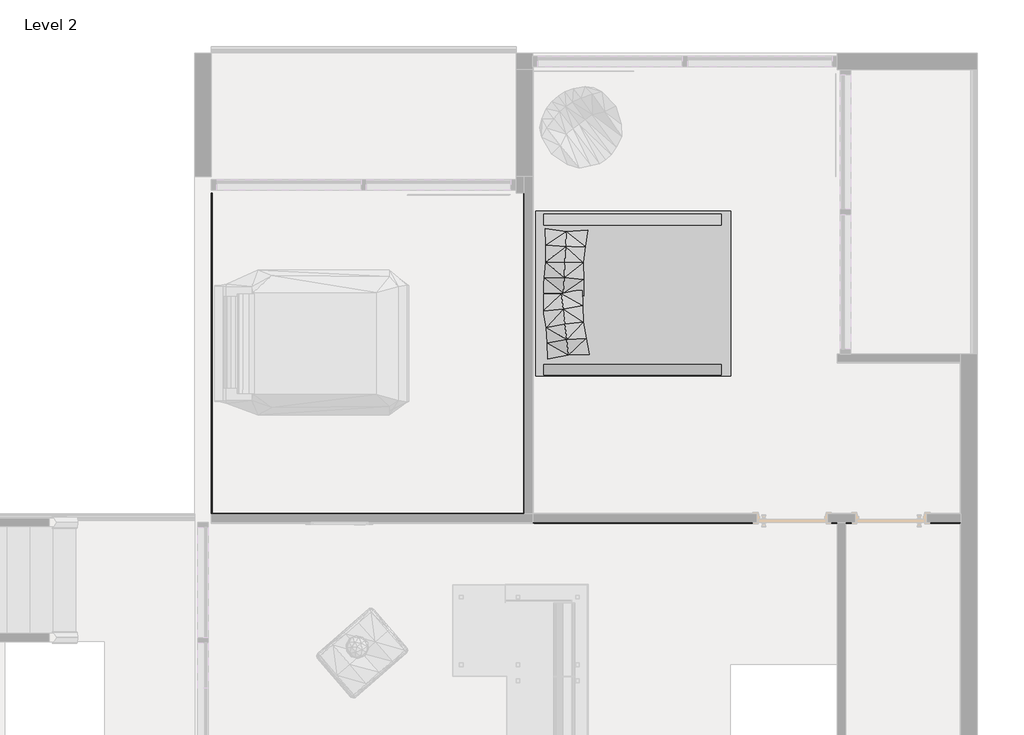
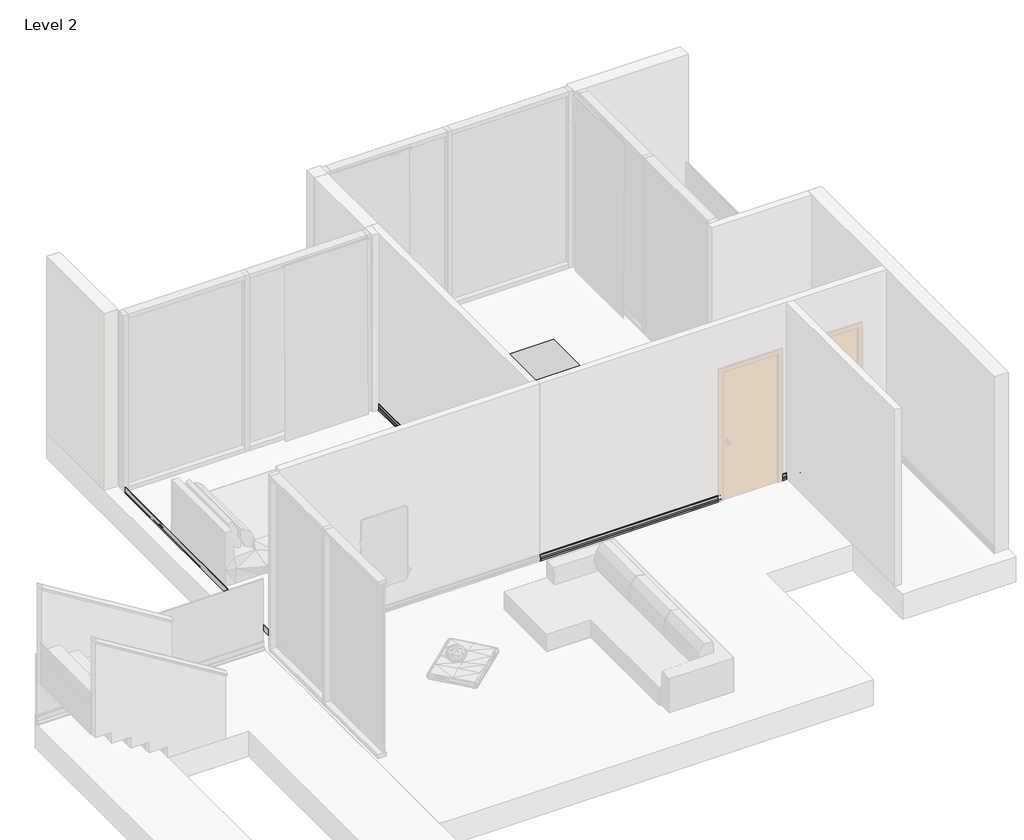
# One storey, part 3 of 4: 2 proxies, 1 geographic element.
"""IFC4 building model written with IfcOpenShell, lengths in millimetres."""

from ifc_helpers import new_model, si_unit, point, frame, frame_2d, origin, place, context, project, spatial, polyline, circle_curve, ellipse_curve, trimmed, segment, composite_curve, outline, extrude, transform, mapped, element, save
from ifc_brep_helpers import plane_surface, cylinder_surface, revolved_surface, advanced_brep
from components import geographic_element_3f57ac11

model = new_model("IFC4")

# Units and contexts
model_context = context("Model", 3, world=origin())
ifc_project = project(units=[si_unit("LENGTHUNIT", "METRE", prefix="MILLI")], contexts=[model_context])

# Site, building, storey
site = spatial("IfcSite", under=ifc_project)
building = spatial("IfcBuilding", under=site)
storey = spatial("IfcBuildingStorey", under=building, Name="Level 2", Elevation=4200.0)

# Proxies
placement = place(None, origin())
element("IfcBuildingElementProxy", 1, Name="Brick Soldier Course", ObjectType="Brick Soldier Course", at=placement, inside=storey, context=model_context, shape_type="SweptSolid", body=[
    extrude(outline(composite_curve([segment(polyline([(13066.9206658, 4300.0), (13066.9206658, 4200.0), (13053.7928378, 4200.0)]), True, "CONTINUOUS"), segment(trimmed(circle_curve(frame_2d((13011.7757488, 4223.0672348)), 47.932589), [point((13053.7928378, 4200.0))], [point((13059.2884138, 4216.7363778))], True, "CARTESIAN"), True, "CONTINUOUS"), segment(trimmed(circle_curve(frame_2d((13060.6531616, 4216.554531)), 1.3768096), [point((13059.2884138, 4216.7363778))], [point((13060.6531616, 4217.9313406))], False, "CARTESIAN"), True, "CONTINUOUS"), segment(polyline([(13060.6531616, 4217.9313406), (13061.9206658, 4217.9313406), (13061.9206658, 4225.0), (13060.8836184, 4225.0)]), True, "CONTINUOUS"), segment(trimmed(circle_curve(frame_2d((13060.8836184, 4226.451226)), 1.451226), [point((13060.8836184, 4225.0))], [point((13059.4323924, 4226.451226))], False, "CARTESIAN"), True, "CONTINUOUS"), segment(polyline([(13059.4323924, 4226.451226), (13059.4323924, 4248.5)]), True, "CONTINUOUS"), segment(trimmed(circle_curve(frame_2d((13060.9323924, 4248.5)), 1.5), [point((13059.4323924, 4248.5))], [point((13060.9323924, 4250.0))], False, "CARTESIAN"), True, "CONTINUOUS"), segment(polyline([(13060.9323924, 4250.0), (13064.4323924, 4250.0), (13064.4323924, 4290.0), (13063.3572238, 4290.0)]), True, "CONTINUOUS"), segment(trimmed(circle_curve(frame_2d((13063.3572238, 4291.4365579)), 1.4365579), [point((13063.3572238, 4290.0))], [point((13061.9206658, 4291.4365579))], False, "CARTESIAN"), True, "CONTINUOUS"), segment(polyline([(13061.9206658, 4291.4365579), (13061.9206658, 4295.9967275)]), True, "CONTINUOUS"), segment(trimmed(circle_curve(frame_2d((13065.9239384, 4295.9967275)), 4.0032725), [point((13061.9206658, 4295.9967275))], [point((13065.9239384, 4300.0))], False, "CARTESIAN"), True, "CONTINUOUS"), segment(polyline([(13065.9239384, 4300.0), (13066.9206658, 4300.0)]), True, "CONTINUOUS")], self_intersect=False)), frame((25624.9337784, 0.0, 0.0), z_axis=(1.0, 0.0, 0.0), x_axis=(0.0, 1.0, 0.0)), (0.0, 0.0, 1.0), 418.2),
    extrude(outline(composite_curve([segment(polyline([(13066.9206658, 4300.0), (13066.9206658, 4200.0), (13053.7928378, 4200.0)]), True, "CONTINUOUS"), segment(trimmed(circle_curve(frame_2d((13011.7757488, 4223.0672348)), 47.932589), [point((13053.7928378, 4200.0))], [point((13059.2884138, 4216.7363778))], True, "CARTESIAN"), True, "CONTINUOUS"), segment(trimmed(circle_curve(frame_2d((13060.6531616, 4216.554531)), 1.3768096), [point((13059.2884138, 4216.7363778))], [point((13060.6531616, 4217.9313406))], False, "CARTESIAN"), True, "CONTINUOUS"), segment(polyline([(13060.6531616, 4217.9313406), (13061.9206658, 4217.9313406), (13061.9206658, 4225.0), (13060.8836184, 4225.0)]), True, "CONTINUOUS"), segment(trimmed(circle_curve(frame_2d((13060.8836184, 4226.451226)), 1.451226), [point((13060.8836184, 4225.0))], [point((13059.4323924, 4226.451226))], False, "CARTESIAN"), True, "CONTINUOUS"), segment(polyline([(13059.4323924, 4226.451226), (13059.4323924, 4248.5)]), True, "CONTINUOUS"), segment(trimmed(circle_curve(frame_2d((13060.9323924, 4248.5)), 1.5), [point((13059.4323924, 4248.5))], [point((13060.9323924, 4250.0))], False, "CARTESIAN"), True, "CONTINUOUS"), segment(polyline([(13060.9323924, 4250.0), (13064.4323924, 4250.0), (13064.4323924, 4290.0), (13063.3572238, 4290.0)]), True, "CONTINUOUS"), segment(trimmed(circle_curve(frame_2d((13063.3572238, 4291.4365579)), 1.4365579), [point((13063.3572238, 4290.0))], [point((13061.9206658, 4291.4365579))], False, "CARTESIAN"), True, "CONTINUOUS"), segment(polyline([(13061.9206658, 4291.4365579), (13061.9206658, 4295.9967275)]), True, "CONTINUOUS"), segment(trimmed(circle_curve(frame_2d((13065.9239384, 4295.9967275)), 4.0032725), [point((13061.9206658, 4295.9967275))], [point((13065.9239384, 4300.0))], False, "CARTESIAN"), True, "CONTINUOUS"), segment(polyline([(13065.9239384, 4300.0), (13066.9206658, 4300.0)]), True, "CONTINUOUS")], self_intersect=False)), frame((24424.9337784, 0.0, 0.0), z_axis=(1.0, 0.0, 0.0), x_axis=(0.0, 1.0, 0.0)), (0.0, 0.0, 1.0), 336.4),
    extrude(outline(composite_curve([segment(polyline([(13066.9206658, 4300.0), (13066.9206658, 4200.0), (13053.7928378, 4200.0)]), True, "CONTINUOUS"), segment(trimmed(circle_curve(frame_2d((13011.7757488, 4223.0672348)), 47.932589), [point((13053.7928378, 4200.0))], [point((13059.2884138, 4216.7363778))], True, "CARTESIAN"), True, "CONTINUOUS"), segment(trimmed(circle_curve(frame_2d((13060.6531616, 4216.554531)), 1.3768096), [point((13059.2884138, 4216.7363778))], [point((13060.6531616, 4217.9313406))], False, "CARTESIAN"), True, "CONTINUOUS"), segment(polyline([(13060.6531616, 4217.9313406), (13061.9206658, 4217.9313406), (13061.9206658, 4225.0), (13060.8836184, 4225.0)]), True, "CONTINUOUS"), segment(trimmed(circle_curve(frame_2d((13060.8836184, 4226.451226)), 1.451226), [point((13060.8836184, 4225.0))], [point((13059.4323924, 4226.451226))], False, "CARTESIAN"), True, "CONTINUOUS"), segment(polyline([(13059.4323924, 4226.451226), (13059.4323924, 4248.5)]), True, "CONTINUOUS"), segment(trimmed(circle_curve(frame_2d((13060.9323924, 4248.5)), 1.5), [point((13059.4323924, 4248.5))], [point((13060.9323924, 4250.0))], False, "CARTESIAN"), True, "CONTINUOUS"), segment(polyline([(13060.9323924, 4250.0), (13064.4323924, 4250.0), (13064.4323924, 4290.0), (13063.3572238, 4290.0)]), True, "CONTINUOUS"), segment(trimmed(circle_curve(frame_2d((13063.3572238, 4291.4365579)), 1.4365579), [point((13063.3572238, 4290.0))], [point((13061.9206658, 4291.4365579))], False, "CARTESIAN"), True, "CONTINUOUS"), segment(polyline([(13061.9206658, 4291.4365579), (13061.9206658, 4295.9967275)]), True, "CONTINUOUS"), segment(trimmed(circle_curve(frame_2d((13065.9239384, 4295.9967275)), 4.0032725), [point((13061.9206658, 4295.9967275))], [point((13065.9239384, 4300.0))], False, "CARTESIAN"), True, "CONTINUOUS"), segment(polyline([(13065.9239384, 4300.0), (13066.9206658, 4300.0)]), True, "CONTINUOUS")], self_intersect=False)), frame((20843.1337784, 0.0, 0.0), z_axis=(1.0, 0.0, 0.0), x_axis=(0.0, 1.0, 0.0)), (0.0, 0.0, 1.0), 2718.2),
])
element("IfcBuildingElementProxy", 2, Name="Brick Soldier Course", ObjectType="Brick Soldier Course", at=placement, inside=storey, context=model_context, shape_type="AdvancedBrep", body=[
    advanced_brep(
    [(16943.1337784, 13166.9206658, 4300.0), (16944.1305058, 13167.9173933, 4300.0), (16948.1337784, 13171.9206658, 4295.9967275), (16948.1337784, 13171.9206658, 4291.4365579), (16946.6972204, 13170.4841079, 4290.0), (16945.6220518, 13169.4089393, 4290.0), (16945.6220518, 13169.4089393, 4250.0), (16949.1220518, 13172.9089393, 4250.0), (16950.6220518, 13174.4089393, 4248.5), (16950.6220518, 13174.4089393, 4226.451226), (16949.1708258, 13172.9577133, 4225.0), (16948.1337784, 13171.9206658, 4225.0), (16948.1337784, 13171.9206658, 4217.9313406), (16949.4012827, 13173.1881701, 4217.9313406), (16950.7660304, 13174.5529179, 4216.7363778), (16956.2616065, 13180.0484939, 4200.0), (16943.1337784, 13166.9206658, 4200.0), (20743.1337784, 13166.9206658, 4300.0), (20743.1337784, 13166.9206658, 4200.0), (20730.0059503, 13180.0484939, 4200.0), (20735.5015263, 13174.5529179, 4216.7363778), (20736.8662741, 13173.1881701, 4217.9313406), (20738.1337784, 13171.9206658, 4217.9313406), (20738.1337784, 13171.9206658, 4225.0), (20737.0967309, 13172.9577133, 4225.0), (20735.6455049, 13174.4089393, 4226.451226), (20735.6455049, 13174.4089393, 4248.5), (20737.1455049, 13172.9089393, 4250.0), (20740.6455049, 13169.4089393, 4250.0), (20740.6455049, 13169.4089393, 4290.0), (20739.5703363, 13170.4841079, 4290.0), (20738.1337784, 13171.9206658, 4291.4365579), (20738.1337784, 13171.9206658, 4295.9967275), (20742.1370509, 13167.9173933, 4300.0)],
    [
        (0, 1),
        (1, 2, ellipse_curve(frame((16944.1305058, 13167.9173933, 4295.9967275), z_axis=(-0.7071067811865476, 0.7071067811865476, 0.0), x_axis=(-0.7071067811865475, -0.7071067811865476, 0.0)), 5.6614823, 4.0032725)),
        (2, 3),
        (3, 4, ellipse_curve(frame((16946.6972204, 13170.4841079, 4291.4365579), z_axis=(-0.7071067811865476, 0.7071067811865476, 0.0), x_axis=(-0.7071067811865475, -0.7071067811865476, 0.0)), 2.0315997, 1.4365579)),
        (4, 5),
        (5, 6),
        (6, 7),
        (7, 8, ellipse_curve(frame((16949.1220518, 13172.9089393, 4248.5), z_axis=(-0.7071067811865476, 0.7071067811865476, 0.0), x_axis=(-0.7071067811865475, -0.7071067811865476, 0.0)), 2.1213203, 1.5)),
        (8, 9),
        (9, 10, ellipse_curve(frame((16949.1708258, 13172.9577133, 4226.451226), z_axis=(-0.7071067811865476, 0.7071067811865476, 0.0), x_axis=(-0.7071067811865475, -0.7071067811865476, 0.0)), 2.0523435, 1.451226)),
        (10, 11),
        (11, 12),
        (12, 13),
        (13, 14, ellipse_curve(frame((16949.4012827, 13173.1881701, 4216.554531), z_axis=(-0.7071067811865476, 0.7071067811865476, 0.0), x_axis=(-0.7071067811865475, -0.7071067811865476, 0.0)), 1.9471028, 1.3768096)),
        (14, 15, ellipse_curve(frame((16998.2786954, 13222.0655829, 4223.0672348), z_axis=(0.7071067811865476, -0.7071067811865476, 0.0), x_axis=(0.7071067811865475, 0.7071067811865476, 0.0)), 67.7869174, 47.932589)),
        (15, 16),
        (16, 0),
        (17, 18),
        (18, 19),
        (19, 20, ellipse_curve(frame((20687.9888613, 13222.0655829, 4223.0672348), z_axis=(-0.7071067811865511, -0.707106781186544, 0.0), x_axis=(0.7071067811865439, -0.7071067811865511, 0.0)), 67.7869174, 47.932589)),
        (20, 21, ellipse_curve(frame((20736.8662741, 13173.1881701, 4216.554531), z_axis=(0.7071067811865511, 0.707106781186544, 0.0), x_axis=(-0.7071067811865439, 0.7071067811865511, 0.0)), 1.9471028, 1.3768096)),
        (21, 22),
        (22, 23),
        (23, 24),
        (24, 25, ellipse_curve(frame((20737.0967309, 13172.9577133, 4226.451226), z_axis=(0.7071067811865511, 0.707106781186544, 0.0), x_axis=(-0.7071067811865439, 0.7071067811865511, 0.0)), 2.0523435, 1.451226)),
        (25, 26),
        (26, 27, ellipse_curve(frame((20737.1455049, 13172.9089393, 4248.5), z_axis=(0.7071067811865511, 0.707106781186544, 0.0), x_axis=(-0.7071067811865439, 0.7071067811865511, 0.0)), 2.1213203, 1.5)),
        (27, 28),
        (28, 29),
        (29, 30),
        (30, 31, ellipse_curve(frame((20739.5703363, 13170.4841079, 4291.4365579), z_axis=(0.7071067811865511, 0.707106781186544, 0.0), x_axis=(-0.7071067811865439, 0.7071067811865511, 0.0)), 2.0315997, 1.4365579)),
        (31, 32),
        (32, 33, ellipse_curve(frame((20742.1370509, 13167.9173933, 4295.9967275), z_axis=(0.7071067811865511, 0.707106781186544, 0.0), x_axis=(-0.7071067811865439, 0.7071067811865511, 0.0)), 5.6614823, 4.0032725)),
        (33, 17),
        (0, 17),
        (33, 1),
        (32, 2),
        (31, 3),
        (30, 4),
        (29, 5),
        (28, 6),
        (27, 7),
        (26, 8),
        (25, 9),
        (24, 10),
        (23, 11),
        (22, 12),
        (21, 13),
        (20, 14),
        (19, 15),
        (18, 16),
    ],
    [
        plane_surface(frame((16943.1337784, 13166.9206658, 3895.2), z_axis=(-0.7071067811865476, 0.7071067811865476, 0.0), x_axis=(0.7071067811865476, 0.7071067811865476, 0.0))),
        plane_surface(frame((20743.1337784, 13166.9206658, 3895.2), z_axis=(0.7071067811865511, 0.707106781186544, 0.0), x_axis=(-0.707106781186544, 0.7071067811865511, 0.0))),
        plane_surface(frame((16943.1337784, 13166.9206658, 4300.0), z_axis=(0.0, 0.0, 1.0), x_axis=(1.0, 0.0, 0.0))),
        cylinder_surface(frame((16943.1337784, 13167.9173933, 4295.9967275), z_axis=(-1.0, 0.0, 0.0), x_axis=(0.0, 1.0, 0.0)), 4.0032725),
        plane_surface(frame((16948.1337784, 13171.9206658, 4295.9967275), z_axis=(0.0, 1.0, 0.0), x_axis=(1.0, 0.0, 0.0))),
        cylinder_surface(frame((16943.1337784, 13170.4841079, 4291.4365579), z_axis=(-1.0, 0.0, 0.0), x_axis=(0.0, 1.0, 0.0)), 1.4365579),
        plane_surface(frame((16946.6972204, 13170.4841079, 4290.0), z_axis=(0.0, 0.0, -1.0), x_axis=(1.0, 0.0, 0.0))),
        plane_surface(frame((16945.6220518, 13169.4089393, 4290.0), z_axis=(0.0, 1.0, 0.0), x_axis=(1.0, 0.0, 0.0))),
        plane_surface(frame((16945.6220518, 13169.4089393, 4250.0), z_axis=(0.0, 0.0, 1.0), x_axis=(1.0, 0.0, 0.0))),
        cylinder_surface(frame((16943.1337784, 13172.9089393, 4248.5), z_axis=(-1.0, 0.0, 0.0), x_axis=(0.0, 1.0, 0.0)), 1.5),
        plane_surface(frame((16950.6220518, 13174.4089393, 4248.5), z_axis=(0.0, 1.0, 0.0), x_axis=(1.0, 0.0, 0.0))),
        cylinder_surface(frame((16943.1337784, 13172.9577133, 4226.451226), z_axis=(-1.0, 0.0, 0.0), x_axis=(0.0, 1.0, 0.0)), 1.451226),
        plane_surface(frame((16949.1708258, 13172.9577133, 4225.0), z_axis=(0.0, 0.0, -1.0), x_axis=(1.0, 0.0, 0.0))),
        plane_surface(frame((16948.1337784, 13171.9206658, 4225.0), z_axis=(0.0, 1.0, 0.0), x_axis=(1.0, 0.0, 0.0))),
        plane_surface(frame((16948.1337784, 13171.9206658, 4217.9313406), z_axis=(0.0, 0.0, 1.0), x_axis=(1.0, 0.0, 0.0))),
        cylinder_surface(frame((16943.1337784, 13173.1881701, 4216.554531), z_axis=(-1.0, 0.0, 0.0), x_axis=(0.0, 1.0, 0.0)), 1.3768096),
        revolved_surface(polyline([(20735.921450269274, 13269.9981719, 4223.0672348), (16950.346106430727, 13269.9981719, 4223.0672348)]), (16943.1337784, 13222.0655829, 4223.0672348), (1.0, 0.0, 0.0)),
        plane_surface(frame((16956.2616065, 13180.0484939, 4200.0), z_axis=(0.0, 0.0, -1.0), x_axis=(1.0, 0.0, 0.0))),
        plane_surface(frame((16943.1337784, 13166.9206658, 4200.0), z_axis=(0.0, -1.0, 0.0), x_axis=(1.0, 0.0, 0.0))),
    ],
    [
        (0, [[1, 2, 3, 4, 5, 6, 7, 8, 9, 10, 11, 12, 13, 14, 15, 16, 17]]),
        (1, [[18, 19, 20, 21, 22, 23, 24, 25, 26, 27, 28, 29, 30, 31, 32, 33, 34]]),
        (2, [[-1, 35, -34, 36]]),
        (3, [[-2, -36, -33, 37]]),
        (4, [[-3, -37, -32, 38]]),
        (5, [[-4, -38, -31, 39]]),
        (6, [[-5, -39, -30, 40]]),
        (7, [[-6, -40, -29, 41]]),
        (8, [[-7, -41, -28, 42]]),
        (9, [[-8, -42, -27, 43]]),
        (10, [[-9, -43, -26, 44]]),
        (11, [[-10, -44, -25, 45]]),
        (12, [[-11, -45, -24, 46]]),
        (13, [[-12, -46, -23, 47]]),
        (14, [[-13, -47, -22, 48]]),
        (15, [[-14, -48, -21, 49]]),
        (16, [[-15, -49, -20, 50]]),
        (17, [[-16, -50, -19, 51]]),
        (18, [[-17, -51, -18, -35]]),
    ],
),
    advanced_brep(
    [(20743.1337784, 13166.9206658, 4300.0), (20742.1370509, 13167.9173933, 4300.0), (20738.1337784, 13171.9206658, 4295.9967275), (20738.1337784, 13171.9206658, 4291.4365579), (20739.5703363, 13170.4841079, 4290.0), (20740.6455049, 13169.4089393, 4290.0), (20740.6455049, 13169.4089393, 4250.0), (20737.1455049, 13172.9089393, 4250.0), (20735.6455049, 13174.4089393, 4248.5), (20735.6455049, 13174.4089393, 4226.451226), (20737.0967309, 13172.9577133, 4225.0), (20738.1337784, 13171.9206658, 4225.0), (20738.1337784, 13171.9206658, 4217.9313406), (20736.8662741, 13173.1881701, 4217.9313406), (20735.5015263, 13174.5529179, 4216.7363778), (20730.0059503, 13180.0484939, 4200.0), (20743.1337784, 13166.9206658, 4200.0), (20743.1337784, 17066.9206658, 4300.0), (20743.1337784, 17066.9206658, 4200.0), (20730.0059503, 17066.9206658, 4200.0), (20735.5015263, 17066.9206658, 4216.7363778), (20736.8662741, 17066.9206658, 4217.9313406), (20738.1337784, 17066.9206658, 4217.9313406), (20738.1337784, 17066.9206658, 4225.0), (20737.0967309, 17066.9206658, 4225.0), (20735.6455049, 17066.9206658, 4226.451226), (20735.6455049, 17066.9206658, 4248.5), (20737.1455049, 17066.9206658, 4250.0), (20740.6455049, 17066.9206658, 4250.0), (20740.6455049, 17066.9206658, 4290.0), (20739.5703363, 17066.9206658, 4290.0), (20738.1337784, 17066.9206658, 4291.4365579), (20738.1337784, 17066.9206658, 4295.9967275), (20742.1370509, 17066.9206658, 4300.0)],
    [
        (0, 1),
        (1, 2, ellipse_curve(frame((20742.1370509, 13167.9173933, 4295.9967275), z_axis=(-0.7071067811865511, -0.707106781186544, 0.0), x_axis=(0.707106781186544, -0.707106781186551, 0.0)), 5.6614823, 4.0032725)),
        (2, 3),
        (3, 4, ellipse_curve(frame((20739.5703363, 13170.4841079, 4291.4365579), z_axis=(-0.7071067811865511, -0.707106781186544, 0.0), x_axis=(0.707106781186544, -0.707106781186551, 0.0)), 2.0315997, 1.4365579)),
        (4, 5),
        (5, 6),
        (6, 7),
        (7, 8, ellipse_curve(frame((20737.1455049, 13172.9089393, 4248.5), z_axis=(-0.7071067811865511, -0.707106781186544, 0.0), x_axis=(0.707106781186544, -0.707106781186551, 0.0)), 2.1213203, 1.5)),
        (8, 9),
        (9, 10, ellipse_curve(frame((20737.0967309, 13172.9577133, 4226.451226), z_axis=(-0.7071067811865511, -0.707106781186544, 0.0), x_axis=(0.707106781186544, -0.707106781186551, 0.0)), 2.0523435, 1.451226)),
        (10, 11),
        (11, 12),
        (12, 13),
        (13, 14, ellipse_curve(frame((20736.8662741, 13173.1881701, 4216.554531), z_axis=(-0.7071067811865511, -0.707106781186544, 0.0), x_axis=(0.707106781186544, -0.707106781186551, 0.0)), 1.9471028, 1.3768096)),
        (14, 15, ellipse_curve(frame((20687.9888613, 13222.0655829, 4223.0672348), z_axis=(0.7071067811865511, 0.707106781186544, 0.0), x_axis=(-0.707106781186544, 0.707106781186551, 0.0)), 67.7869174, 47.932589)),
        (15, 16),
        (16, 0),
        (17, 18),
        (18, 19),
        (19, 20, circle_curve(frame((20687.9888613, 17066.9206658, 4223.0672348), z_axis=(0.0, -1.0, 0.0), x_axis=(-1.0, 0.0, 0.0)), 47.932589)),
        (20, 21, circle_curve(frame((20736.8662741, 17066.9206658, 4216.554531), z_axis=(0.0, 1.0, 0.0), x_axis=(-1.0, 0.0, 0.0)), 1.3768096)),
        (21, 22),
        (22, 23),
        (23, 24),
        (24, 25, circle_curve(frame((20737.0967309, 17066.9206658, 4226.451226), z_axis=(0.0, 1.0, 0.0), x_axis=(-1.0, 0.0, 0.0)), 1.451226)),
        (25, 26),
        (26, 27, circle_curve(frame((20737.1455049, 17066.9206658, 4248.5), z_axis=(0.0, 1.0, 0.0), x_axis=(-1.0, 0.0, 0.0)), 1.5)),
        (27, 28),
        (28, 29),
        (29, 30),
        (30, 31, circle_curve(frame((20739.5703363, 17066.9206658, 4291.4365579), z_axis=(0.0, 1.0, 0.0), x_axis=(-1.0, 0.0, 0.0)), 1.4365579)),
        (31, 32),
        (32, 33, circle_curve(frame((20742.1370509, 17066.9206658, 4295.9967275), z_axis=(0.0, 1.0, 0.0), x_axis=(-1.0, 0.0, 0.0)), 4.0032725)),
        (33, 17),
        (0, 17),
        (33, 1),
        (32, 2),
        (31, 3),
        (30, 4),
        (29, 5),
        (28, 6),
        (27, 7),
        (26, 8),
        (25, 9),
        (24, 10),
        (23, 11),
        (22, 12),
        (21, 13),
        (20, 14),
        (19, 15),
        (18, 16),
    ],
    [
        plane_surface(frame((20743.1337784, 13166.9206658, 3895.2), z_axis=(-0.7071067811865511, -0.707106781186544, 0.0), x_axis=(-0.707106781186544, 0.7071067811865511, 0.0))),
        plane_surface(frame((20643.1288112, 17066.9206658, 4200.0), z_axis=(0.0, 1.0, 0.0), x_axis=(0.0, 0.0, 1.0))),
        plane_surface(frame((20743.1337784, 13166.9206658, 4300.0), z_axis=(0.0, 0.0, 1.0), x_axis=(0.0, 1.0, 0.0))),
        cylinder_surface(frame((20742.1370509, 13166.9206658, 4295.9967275), z_axis=(0.0, -1.0, 0.0), x_axis=(-1.0, 0.0, 0.0)), 4.0032725),
        plane_surface(frame((20738.1337784, 13171.9206658, 4295.9967275), z_axis=(-1.0, 0.0, 0.0), x_axis=(0.0, 1.0, 0.0))),
        cylinder_surface(frame((20739.5703363, 13166.9206658, 4291.4365579), z_axis=(0.0, -1.0, 0.0), x_axis=(-1.0, 0.0, 0.0)), 1.4365579),
        plane_surface(frame((20739.5703363, 13170.4841079, 4290.0), z_axis=(0.0, 0.0, -1.0), x_axis=(0.0, 1.0, 0.0))),
        plane_surface(frame((20740.6455049, 13169.4089393, 4290.0), z_axis=(-1.0, 0.0, 0.0), x_axis=(0.0, 1.0, 0.0))),
        plane_surface(frame((20740.6455049, 13169.4089393, 4250.0), z_axis=(0.0, 0.0, 1.0), x_axis=(0.0, 1.0, 0.0))),
        cylinder_surface(frame((20737.1455049, 13166.9206658, 4248.5), z_axis=(0.0, -1.0, 0.0), x_axis=(-1.0, 0.0, 0.0)), 1.5),
        plane_surface(frame((20735.6455049, 13174.4089393, 4248.5), z_axis=(-1.0, 0.0, 0.0), x_axis=(0.0, 1.0, 0.0))),
        cylinder_surface(frame((20737.0967309, 13166.9206658, 4226.451226), z_axis=(0.0, -1.0, 0.0), x_axis=(-1.0, 0.0, 0.0)), 1.451226),
        plane_surface(frame((20737.0967309, 13172.9577133, 4225.0), z_axis=(0.0, 0.0, -1.0), x_axis=(0.0, 1.0, 0.0))),
        plane_surface(frame((20738.1337784, 13171.9206658, 4225.0), z_axis=(-1.0, 0.0, 0.0), x_axis=(0.0, 1.0, 0.0))),
        plane_surface(frame((20738.1337784, 13171.9206658, 4217.9313406), z_axis=(0.0, 0.0, 1.0), x_axis=(0.0, 1.0, 0.0))),
        cylinder_surface(frame((20736.8662741, 13166.9206658, 4216.554531), z_axis=(0.0, -1.0, 0.0), x_axis=(-1.0, 0.0, 0.0)), 1.3768096),
        revolved_surface(polyline([(20640.0562723, 17066.9206658, 4223.0672348), (20640.0562723, 13174.132993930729, 4223.0672348)]), (20687.9888613, 13166.9206658, 4223.0672348), (0.0, 1.0, 0.0)),
        plane_surface(frame((20730.0059503, 13180.0484939, 4200.0), z_axis=(0.0, 0.0, -1.0), x_axis=(0.0, 1.0, 0.0))),
        plane_surface(frame((20743.1337784, 13166.9206658, 4200.0), z_axis=(1.0, 0.0, 0.0), x_axis=(0.0, 1.0, 0.0))),
    ],
    [
        (0, [[1, 2, 3, 4, 5, 6, 7, 8, 9, 10, 11, 12, 13, 14, 15, 16, 17]]),
        (1, [[18, 19, 20, 21, 22, 23, 24, 25, 26, 27, 28, 29, 30, 31, 32, 33, 34]]),
        (2, [[-1, 35, -34, 36]]),
        (3, [[-2, -36, -33, 37]]),
        (4, [[-3, -37, -32, 38]]),
        (5, [[-4, -38, -31, 39]]),
        (6, [[-5, -39, -30, 40]]),
        (7, [[-6, -40, -29, 41]]),
        (8, [[-7, -41, -28, 42]]),
        (9, [[-8, -42, -27, 43]]),
        (10, [[-9, -43, -26, 44]]),
        (11, [[-10, -44, -25, 45]]),
        (12, [[-11, -45, -24, 46]]),
        (13, [[-12, -46, -23, 47]]),
        (14, [[-13, -47, -22, 48]]),
        (15, [[-14, -48, -21, 49]]),
        (16, [[-15, -49, -20, 50]]),
        (17, [[-16, -50, -19, 51]]),
        (18, [[-17, -51, -18, -35]]),
    ],
),
    advanced_brep(
    [(16943.1337784, 17066.9206658, 4300.0), (16944.1305058, 17066.9206658, 4300.0), (16948.1337784, 17066.9206658, 4295.9967275), (16948.1337784, 17066.9206658, 4291.4365579), (16946.6972204, 17066.9206658, 4290.0), (16945.6220518, 17066.9206658, 4290.0), (16945.6220518, 17066.9206658, 4250.0), (16949.1220518, 17066.9206658, 4250.0), (16950.6220518, 17066.9206658, 4248.5), (16950.6220518, 17066.9206658, 4226.451226), (16949.1708258, 17066.9206658, 4225.0), (16948.1337784, 17066.9206658, 4225.0), (16948.1337784, 17066.9206658, 4217.9313406), (16949.4012827, 17066.9206658, 4217.9313406), (16950.7660304, 17066.9206658, 4216.7363778), (16956.2616065, 17066.9206658, 4200.0), (16943.1337784, 17066.9206658, 4200.0), (16943.1337784, 13166.9206658, 4300.0), (16943.1337784, 13166.9206658, 4200.0), (16956.2616065, 13180.0484939, 4200.0), (16950.7660304, 13174.5529179, 4216.7363778), (16949.4012827, 13173.1881701, 4217.9313406), (16948.1337784, 13171.9206658, 4217.9313406), (16948.1337784, 13171.9206658, 4225.0), (16949.1708258, 13172.9577133, 4225.0), (16950.6220518, 13174.4089393, 4226.451226), (16950.6220518, 13174.4089393, 4248.5), (16949.1220518, 13172.9089393, 4250.0), (16945.6220518, 13169.4089393, 4250.0), (16945.6220518, 13169.4089393, 4290.0), (16946.6972204, 13170.4841079, 4290.0), (16948.1337784, 13171.9206658, 4291.4365579), (16948.1337784, 13171.9206658, 4295.9967275), (16944.1305058, 13167.9173933, 4300.0)],
    [
        (0, 1),
        (1, 2, circle_curve(frame((16944.1305058, 17066.9206658, 4295.9967275), z_axis=(0.0, 1.0, 0.0), x_axis=(1.0, 0.0, 0.0)), 4.0032725)),
        (2, 3),
        (3, 4, circle_curve(frame((16946.6972204, 17066.9206658, 4291.4365579), z_axis=(0.0, 1.0, 0.0), x_axis=(1.0, 0.0, 0.0)), 1.4365579)),
        (4, 5),
        (5, 6),
        (6, 7),
        (7, 8, circle_curve(frame((16949.1220518, 17066.9206658, 4248.5), z_axis=(0.0, 1.0, 0.0), x_axis=(1.0, 0.0, 0.0)), 1.5)),
        (8, 9),
        (9, 10, circle_curve(frame((16949.1708258, 17066.9206658, 4226.451226), z_axis=(0.0, 1.0, 0.0), x_axis=(1.0, 0.0, 0.0)), 1.451226)),
        (10, 11),
        (11, 12),
        (12, 13),
        (13, 14, circle_curve(frame((16949.4012827, 17066.9206658, 4216.554531), z_axis=(0.0, 1.0, 0.0), x_axis=(1.0, 0.0, 0.0)), 1.3768096)),
        (14, 15, circle_curve(frame((16998.2786954, 17066.9206658, 4223.0672348), z_axis=(0.0, -1.0, 0.0), x_axis=(1.0, 0.0, 0.0)), 47.932589)),
        (15, 16),
        (16, 0),
        (17, 18),
        (18, 19),
        (19, 20, ellipse_curve(frame((16998.2786954, 13222.0655829, 4223.0672348), z_axis=(-0.7071067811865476, 0.7071067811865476, 0.0), x_axis=(-0.7071067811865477, -0.7071067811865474, 0.0)), 67.7869174, 47.932589)),
        (20, 21, ellipse_curve(frame((16949.4012827, 13173.1881701, 4216.554531), z_axis=(0.7071067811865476, -0.7071067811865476, 0.0), x_axis=(0.7071067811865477, 0.7071067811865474, 0.0)), 1.9471028, 1.3768096)),
        (21, 22),
        (22, 23),
        (23, 24),
        (24, 25, ellipse_curve(frame((16949.1708258, 13172.9577133, 4226.451226), z_axis=(0.7071067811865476, -0.7071067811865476, 0.0), x_axis=(0.7071067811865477, 0.7071067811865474, 0.0)), 2.0523435, 1.451226)),
        (25, 26),
        (26, 27, ellipse_curve(frame((16949.1220518, 13172.9089393, 4248.5), z_axis=(0.7071067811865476, -0.7071067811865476, 0.0), x_axis=(0.7071067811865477, 0.7071067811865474, 0.0)), 2.1213203, 1.5)),
        (27, 28),
        (28, 29),
        (29, 30),
        (30, 31, ellipse_curve(frame((16946.6972204, 13170.4841079, 4291.4365579), z_axis=(0.7071067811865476, -0.7071067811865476, 0.0), x_axis=(0.7071067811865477, 0.7071067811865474, 0.0)), 2.0315997, 1.4365579)),
        (31, 32),
        (32, 33, ellipse_curve(frame((16944.1305058, 13167.9173933, 4295.9967275), z_axis=(0.7071067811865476, -0.7071067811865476, 0.0), x_axis=(0.7071067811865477, 0.7071067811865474, 0.0)), 5.6614823, 4.0032725)),
        (33, 17),
        (0, 17),
        (33, 1),
        (32, 2),
        (31, 3),
        (30, 4),
        (29, 5),
        (28, 6),
        (27, 7),
        (26, 8),
        (25, 9),
        (24, 10),
        (23, 11),
        (22, 12),
        (21, 13),
        (20, 14),
        (19, 15),
        (18, 16),
    ],
    [
        plane_surface(frame((16843.1288112, 17066.9206658, 4200.0), z_axis=(0.0, 1.0, 0.0), x_axis=(0.0, 0.0, -1.0))),
        plane_surface(frame((16943.1337784, 13166.9206658, 3895.2), z_axis=(0.7071067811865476, -0.7071067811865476, 0.0), x_axis=(0.7071067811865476, 0.7071067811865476, 0.0))),
        plane_surface(frame((16943.1337784, 17066.9206658, 4300.0), z_axis=(0.0, 0.0, 1.0), x_axis=(0.0, -1.0, 0.0))),
        cylinder_surface(frame((16944.1305058, 17066.9206658, 4295.9967275), z_axis=(0.0, 1.0, 0.0), x_axis=(1.0, 0.0, 0.0)), 4.0032725),
        plane_surface(frame((16948.1337784, 17066.9206658, 4295.9967275), z_axis=(1.0, 0.0, 0.0), x_axis=(0.0, -1.0, 0.0))),
        cylinder_surface(frame((16946.6972204, 17066.9206658, 4291.4365579), z_axis=(0.0, 1.0, 0.0), x_axis=(1.0, 0.0, 0.0)), 1.4365579),
        plane_surface(frame((16946.6972204, 17066.9206658, 4290.0), z_axis=(0.0, 0.0, -1.0), x_axis=(0.0, -1.0, 0.0))),
        plane_surface(frame((16945.6220518, 17066.9206658, 4290.0), z_axis=(1.0, 0.0, 0.0), x_axis=(0.0, -1.0, 0.0))),
        plane_surface(frame((16945.6220518, 17066.9206658, 4250.0), z_axis=(0.0, 0.0, 1.0), x_axis=(0.0, -1.0, 0.0))),
        cylinder_surface(frame((16949.1220518, 17066.9206658, 4248.5), z_axis=(0.0, 1.0, 0.0), x_axis=(1.0, 0.0, 0.0)), 1.5),
        plane_surface(frame((16950.6220518, 17066.9206658, 4248.5), z_axis=(1.0, 0.0, 0.0), x_axis=(0.0, -1.0, 0.0))),
        cylinder_surface(frame((16949.1708258, 17066.9206658, 4226.451226), z_axis=(0.0, 1.0, 0.0), x_axis=(1.0, 0.0, 0.0)), 1.451226),
        plane_surface(frame((16949.1708258, 17066.9206658, 4225.0), z_axis=(0.0, 0.0, -1.0), x_axis=(0.0, -1.0, 0.0))),
        plane_surface(frame((16948.1337784, 17066.9206658, 4225.0), z_axis=(1.0, 0.0, 0.0), x_axis=(0.0, -1.0, 0.0))),
        plane_surface(frame((16948.1337784, 17066.9206658, 4217.9313406), z_axis=(0.0, 0.0, 1.0), x_axis=(0.0, -1.0, 0.0))),
        cylinder_surface(frame((16949.4012827, 17066.9206658, 4216.554531), z_axis=(0.0, 1.0, 0.0), x_axis=(1.0, 0.0, 0.0)), 1.3768096),
        revolved_surface(polyline([(17046.2112844, 13174.132993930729, 4223.0672348), (17046.2112844, 17066.9206658, 4223.0672348)]), (16998.2786954, 17066.9206658, 4223.0672348), (0.0, -1.0, 0.0)),
        plane_surface(frame((16956.2616065, 17066.9206658, 4200.0), z_axis=(0.0, 0.0, -1.0), x_axis=(0.0, -1.0, 0.0))),
        plane_surface(frame((16943.1337784, 17066.9206658, 4200.0), z_axis=(-1.0, 0.0, 0.0), x_axis=(0.0, -1.0, 0.0))),
    ],
    [
        (0, [[1, 2, 3, 4, 5, 6, 7, 8, 9, 10, 11, 12, 13, 14, 15, 16, 17]]),
        (1, [[18, 19, 20, 21, 22, 23, 24, 25, 26, 27, 28, 29, 30, 31, 32, 33, 34]]),
        (2, [[-1, 35, -34, 36]]),
        (3, [[-2, -36, -33, 37]]),
        (4, [[-3, -37, -32, 38]]),
        (5, [[-4, -38, -31, 39]]),
        (6, [[-5, -39, -30, 40]]),
        (7, [[-6, -40, -29, 41]]),
        (8, [[-7, -41, -28, 42]]),
        (9, [[-8, -42, -27, 43]]),
        (10, [[-9, -43, -26, 44]]),
        (11, [[-10, -44, -25, 45]]),
        (12, [[-11, -45, -24, 46]]),
        (13, [[-12, -46, -23, 47]]),
        (14, [[-13, -47, -22, 48]]),
        (15, [[-14, -48, -21, 49]]),
        (16, [[-15, -49, -20, 50]]),
        (17, [[-16, -50, -19, 51]]),
        (18, [[-17, -51, -18, -35]]),
    ],
),
])

# Geographic element
geographic_element_shape = geographic_element_3f57ac11(model_context)
element("IfcGeographicElement", 3, ObjectType="Enscape AssetDefinition - Bed 006 208 x 245 cm (82 x 96 in) : Enscape AssetDefinition - Bed 006 208 x 245 cm (82 x 96 in)", at=placement, inside=storey, context=model_context, shape_type="MappedRepresentation", body=[
    mapped(geographic_element_shape, transform((21993.1337784, 15846.9206658, 4200.0), x_axis=(0.0, 1.0, 0.0), y_axis=(-1.0, 0.0, 0.0), z_axis=(0.0, 0.0, 1.0))),
])

save(model, "model.ifc")
